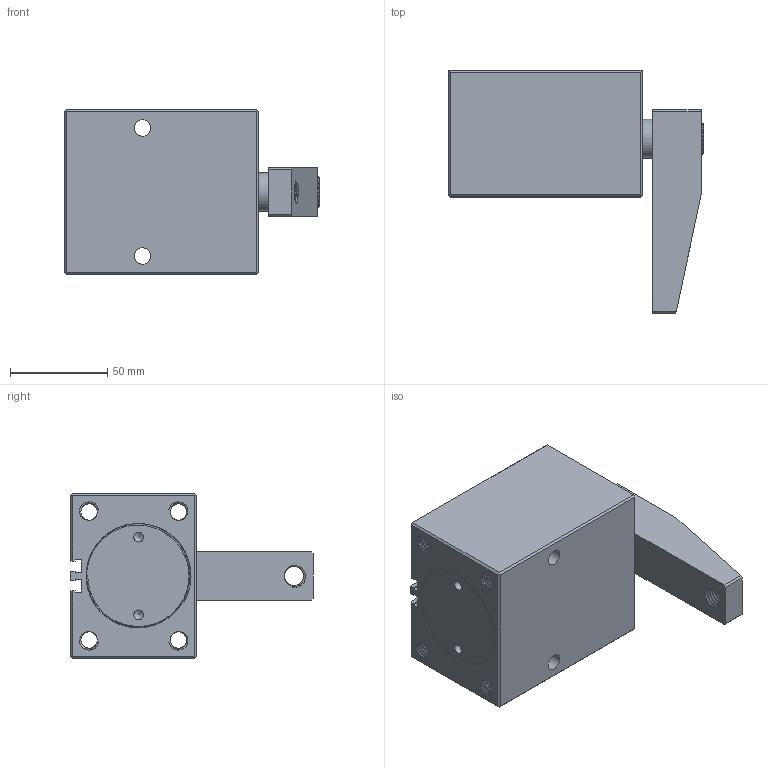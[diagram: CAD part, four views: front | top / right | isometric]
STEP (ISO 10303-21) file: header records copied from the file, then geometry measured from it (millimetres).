
FILE_DESCRIPTION(/* description */ (''),/* implementation_level */ '2;1');
FILE_NAME(/* name */ 'E:\SERWER_ZAPAS\Pneumatic\PSB PNEUMATIC SWING\PSB-50\PSB-50R_ZAMKNIETY.stp',/* time_stamp */ '2019-02-05T13:04:27+01:00',/* author */ ('Admin'),/* organization */ (''),/* preprocessor_version */ 'ST-DEVELOPER v17.2',/* originating_system */ 'Autodesk Inventor 2019',/* authorisation */ '');
FILE_SCHEMA (('AUTOMOTIVE_DESIGN { 1 0 10303 214 3 1 1 }'));
Products named in the file (6): PSB-50R_ZAMKNIETY; PSB-50BT; PSB-50HSG; PSB-50HG; PSB-50YB; M10LC
Assembly tree (5 placements, depth 2):
  PSB-50R_ZAMKNIETY
    PSB-50BT
    PSB-50HSG
    PSB-50HG
    PSB-50YB
    M10LC
Bounding box: 131 x 125 x 85 mm (x, y, z)
Volume: 502763.9 mm3; surface area: 116553.8 mm2
Topology: 5 solids, 5 shells, 408 faces, 1163 edges, 780 vertices
Faces by surface type: cylinder 194, bspline 97, plane 95, torus 14, cone 8
Full cylindrical faces by diameter (mm): 1.5 x2, 5 x2, 8 x16, 8.5 x103, 10 x21, 11 x1, 14 x4, 16 x1, 17 x1, 20 x2, 34 x1, 40 x1, 45 x1, 46 x1, 50 x7, 52 x6, 54 x8, 55 x1
Entity records: 52878 total; most frequent: CARTESIAN_POINT 43078, ORIENTED_EDGE 2320, DIRECTION 1474, EDGE_CURVE 1160, VERTEX_POINT 780, B_SPLINE_CURVE_WITH_KNOTS 529, AXIS2_PLACEMENT_3D 520, EDGE_LOOP 456
